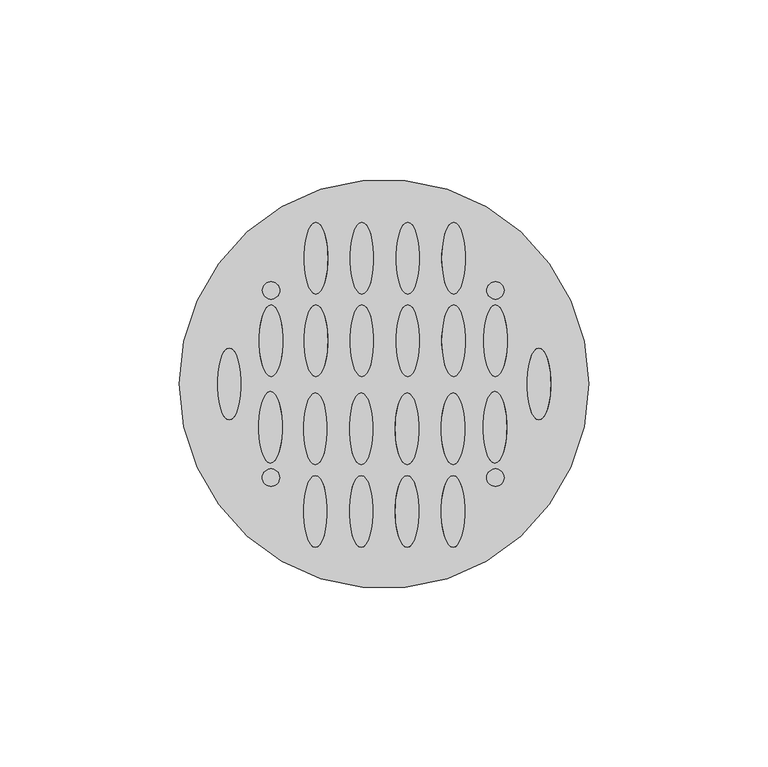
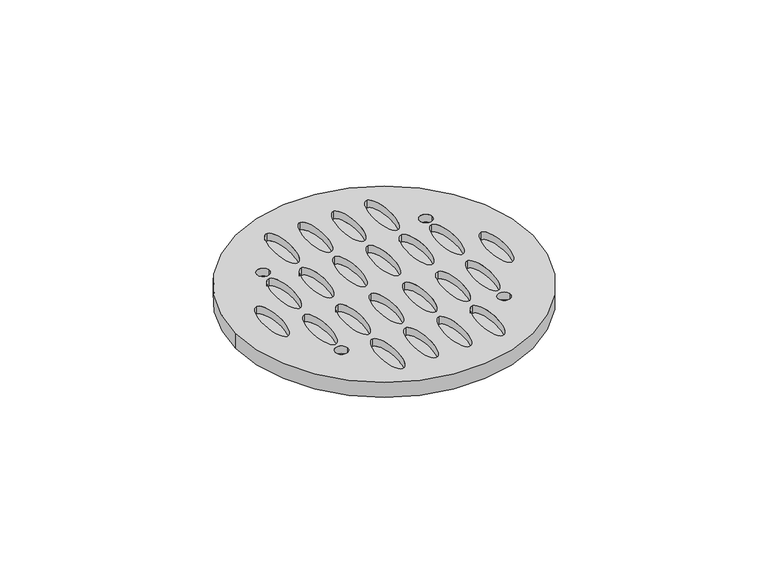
"""IFC4 building model written with IfcOpenShell, lengths in millimetres: pipe fitting geometry, AmancoWavin_Unionesdetubería_SanitarioPVCColaderaSanitariaCementar : Cementar 110 mm."""

from ifc_helpers import new_model, si_unit, point, frame, origin, place, context, project, spatial, polyline, circle_curve, ellipse_curve, trimmed, source, transform, mapped, element, save
from ifc_brep_helpers import plane_surface, cylinder_surface, revolved_surface, extruded_surface, advanced_brep


def pipe_fitting_6519f7ac(model_context):
    return source(origin(), model_context, "Body", "AdvancedBrep", [
        advanced_brep(
        [(-57.0, 0.0, 13.1), (57.0, 0.0, 13.1), (-43.125, 10.0, 13.1), (-43.125, -10.0, 13.1), (-31.4848922, 22.0632684, 13.1), (-31.4848922, 2.0632684, 13.1), (-31.6489621, -2.0699379, 13.1), (-31.6489621, -22.0699379, 13.1), (-29.0574539, 26.0632635, 13.1), (-33.8998162, 26.0632635, 13.1), (-29.068906, -26.0667815, 13.1), (-33.9112683, -26.0667815, 13.1), (-18.9848922, 22.0632684, 13.1), (-18.9848922, 2.0632684, 13.1), (-19.1489621, -2.5, 13.1), (-19.1489621, -22.5, 13.1), (-18.9848922, 45.0632684, 13.1), (-18.9848922, 25.0632684, 13.1), (-19.1489621, -25.5, 13.1), (-19.1489621, -45.5, 13.1), (-6.1848922, 22.0632684, 13.1), (-6.1848922, 2.0632684, 13.1), (-6.3489621, -2.5, 13.1), (-6.3489621, -22.5, 13.1), (-6.1848922, 45.0632684, 13.1), (-6.1848922, 25.0632684, 13.1), (-6.3489621, -25.5, 13.1), (-6.3489621, -45.5, 13.1), (6.6151078, 22.0632684, 13.1), (6.6151078, 2.0632684, 13.1), (6.4510379, -2.5, 13.1), (6.4510379, -22.5, 13.1), (6.6151078, 45.0632684, 13.1), (6.6151078, 25.0632684, 13.1), (6.4510379, -25.5, 13.1), (6.4510379, -45.5, 13.1), (19.4151078, 22.0632684, 13.1), (19.4151078, 2.0632684, 13.1), (19.2510379, -2.5, 13.1), (19.2510379, -22.5, 13.1), (19.4151078, 45.0632684, 13.1), (19.4151078, 25.0632684, 13.1), (19.2510379, -25.5, 13.1), (19.2510379, -45.5, 13.1), (31.0501776, 22.0632684, 13.1), (31.0501776, 2.0632684, 13.1), (30.8861078, -2.0699379, 13.1), (30.8861078, -22.0699379, 13.1), (33.477616, 26.0632635, 13.1), (28.6352536, 26.0632635, 13.1), (33.4661638, -26.0667815, 13.1), (28.6238015, -26.0667815, 13.1), (43.1436396, 10.0, 13.1), (43.1436396, -10.0, 13.1), (-57.0, 0.0, 7.0), (57.0, 0.0, 7.0), (-43.125, -10.0, 9.9881592), (-43.125, 10.0, 9.9881592), (-31.4848922, 2.0632684, 9.9881592), (-31.4848922, 22.0632684, 9.9881592), (-31.6489621, -22.0699379, 9.9881592), (-31.6489621, -2.0699379, 9.9881592), (-33.8998162, 26.0632635, 9.9881592), (-29.0574539, 26.0632635, 9.9881592), (-33.9112683, -26.0667815, 9.9881592), (-29.068906, -26.0667815, 9.9881592), (-18.9848922, 2.0632684, 9.9881592), (-18.9848922, 22.0632684, 9.9881592), (-19.1489621, -22.5, 9.9881592), (-19.1489621, -2.5, 9.9881592), (-18.9848922, 25.0632684, 9.9881592), (-18.9848922, 45.0632684, 9.9881592), (-19.1489621, -45.5, 9.9881592), (-19.1489621, -25.5, 9.9881592), (-6.1848922, 2.0632684, 9.9881592), (-6.1848922, 22.0632684, 9.9881592), (-6.3489621, -22.5, 9.9881592), (-6.3489621, -2.5, 9.9881592), (-6.1848922, 25.0632684, 9.9881592), (-6.1848922, 45.0632684, 9.9881592), (-6.3489621, -45.5, 9.9881592), (-6.3489621, -25.5, 9.9881592), (6.6151078, 2.0632684, 9.9881592), (6.6151078, 22.0632684, 9.9881592), (6.4510379, -22.5, 9.9881592), (6.4510379, -2.5, 9.9881592), (6.6151078, 25.0632684, 9.9881592), (6.6151078, 45.0632684, 9.9881592), (6.4510379, -45.5, 9.9881592), (6.4510379, -25.5, 9.9881592), (19.4151078, 2.0632684, 9.9881592), (19.4151078, 22.0632684, 9.9881592), (19.2510379, -22.5, 9.9881592), (19.2510379, -2.5, 9.9881592), (19.4151078, 25.0632684, 9.9881592), (19.4151078, 45.0632684, 9.9881592), (19.2510379, -45.5, 9.9881592), (19.2510379, -25.5, 9.9881592), (31.0501776, 2.0632684, 9.9881592), (31.0501776, 22.0632684, 9.9881592), (30.8861078, -22.0699379, 9.9881592), (30.8861078, -2.0699379, 9.9881592), (28.6352536, 26.0632635, 9.9881592), (33.477616, 26.0632635, 9.9881592), (28.6238015, -26.0667815, 9.9881592), (33.4661638, -26.0667815, 9.9881592), (43.1436396, -10.0, 9.9881592), (43.1436396, 10.0, 9.9881592)],
        [
            (0, 1, circle_curve(frame((0.0, 0.0, 13.1), z_axis=(0.0, 0.0, 1.0), x_axis=(1.0, 0.0, 0.0)), 57.0)),
            (1, 0, circle_curve(frame((0.0, 0.0, 13.1), z_axis=(0.0, 0.0, 1.0), x_axis=(1.0, 0.0, 0.0)), 57.0)),
            (2, 3, ellipse_curve(frame((-43.125, 0.0, 13.1), z_axis=(0.0, 0.0, -1.0), x_axis=(0.0, 1.0, 0.0)), 10.0, 3.2735089)),
            (3, 2, ellipse_curve(frame((-43.125, 0.0, 13.1), z_axis=(0.0, 0.0, -1.0), x_axis=(0.0, 1.0, 0.0)), 10.0, 3.2735089)),
            (4, 5, ellipse_curve(frame((-31.4848922, 12.0632684, 13.1), z_axis=(0.0, 0.0, -1.0), x_axis=(0.0, 1.0, 0.0)), 10.0, 3.2735089)),
            (5, 4, ellipse_curve(frame((-31.4848922, 12.0632684, 13.1), z_axis=(0.0, 0.0, -1.0), x_axis=(0.0, 1.0, 0.0)), 10.0, 3.2735089)),
            (6, 7, ellipse_curve(frame((-31.6489621, -12.0699379, 13.1), z_axis=(0.0, 0.0, -1.0), x_axis=(0.0, 1.0, 0.0)), 10.0, 3.2735089)),
            (7, 6, ellipse_curve(frame((-31.6489621, -12.0699379, 13.1), z_axis=(0.0, 0.0, -1.0), x_axis=(0.0, 1.0, 0.0)), 10.0, 3.2735089)),
            (8, 9, circle_curve(frame((-31.478635, 26.0632635, 13.1), z_axis=(0.0, 0.0, -1.0), x_axis=(1.0, 0.0, 0.0)), 2.4211812)),
            (9, 8, circle_curve(frame((-31.478635, 26.0632635, 13.1), z_axis=(0.0, 0.0, -1.0), x_axis=(1.0, 0.0, 0.0)), 2.4211812)),
            (10, 11, circle_curve(frame((-31.4900871, -26.0667815, 13.1), z_axis=(0.0, 0.0, -1.0), x_axis=(1.0, 0.0, 0.0)), 2.4211812)),
            (11, 10, circle_curve(frame((-31.4900871, -26.0667815, 13.1), z_axis=(0.0, 0.0, -1.0), x_axis=(1.0, 0.0, 0.0)), 2.4211812)),
            (12, 13, ellipse_curve(frame((-18.9848922, 12.0632684, 13.1), z_axis=(0.0, 0.0, -1.0), x_axis=(0.0, 1.0, 0.0)), 10.0, 3.2735089)),
            (13, 12, ellipse_curve(frame((-18.9848922, 12.0632684, 13.1), z_axis=(0.0, 0.0, -1.0), x_axis=(0.0, 1.0, 0.0)), 10.0, 3.2735089)),
            (14, 15, ellipse_curve(frame((-19.1489621, -12.5, 13.1), z_axis=(0.0, 0.0, -1.0), x_axis=(0.0, 1.0, 0.0)), 10.0, 3.2735089)),
            (15, 14, ellipse_curve(frame((-19.1489621, -12.5, 13.1), z_axis=(0.0, 0.0, -1.0), x_axis=(0.0, 1.0, 0.0)), 10.0, 3.2735089)),
            (16, 17, ellipse_curve(frame((-18.9848922, 35.0632684, 13.1), z_axis=(0.0, 0.0, -1.0), x_axis=(0.0, 1.0, 0.0)), 10.0, 3.2735089)),
            (17, 16, ellipse_curve(frame((-18.9848922, 35.0632684, 13.1), z_axis=(0.0, 0.0, -1.0), x_axis=(0.0, 1.0, 0.0)), 10.0, 3.2735089)),
            (18, 19, ellipse_curve(frame((-19.1489621, -35.5, 13.1), z_axis=(0.0, 0.0, -1.0), x_axis=(0.0, 1.0, 0.0)), 10.0, 3.2735089)),
            (19, 18, ellipse_curve(frame((-19.1489621, -35.5, 13.1), z_axis=(0.0, 0.0, -1.0), x_axis=(0.0, 1.0, 0.0)), 10.0, 3.2735089)),
            (20, 21, ellipse_curve(frame((-6.1848922, 12.0632684, 13.1), z_axis=(0.0, 0.0, -1.0), x_axis=(0.0, 1.0, 0.0)), 10.0, 3.2735089)),
            (21, 20, ellipse_curve(frame((-6.1848922, 12.0632684, 13.1), z_axis=(0.0, 0.0, -1.0), x_axis=(0.0, 1.0, 0.0)), 10.0, 3.2735089)),
            (22, 23, ellipse_curve(frame((-6.3489621, -12.5, 13.1), z_axis=(0.0, 0.0, -1.0), x_axis=(0.0, 1.0, 0.0)), 10.0, 3.2735089)),
            (23, 22, ellipse_curve(frame((-6.3489621, -12.5, 13.1), z_axis=(0.0, 0.0, -1.0), x_axis=(0.0, 1.0, 0.0)), 10.0, 3.2735089)),
            (24, 25, ellipse_curve(frame((-6.1848922, 35.0632684, 13.1), z_axis=(0.0, 0.0, -1.0), x_axis=(0.0, 1.0, 0.0)), 10.0, 3.2735089)),
            (25, 24, ellipse_curve(frame((-6.1848922, 35.0632684, 13.1), z_axis=(0.0, 0.0, -1.0), x_axis=(0.0, 1.0, 0.0)), 10.0, 3.2735089)),
            (26, 27, ellipse_curve(frame((-6.3489621, -35.5, 13.1), z_axis=(0.0, 0.0, -1.0), x_axis=(0.0, 1.0, 0.0)), 10.0, 3.2735089)),
            (27, 26, ellipse_curve(frame((-6.3489621, -35.5, 13.1), z_axis=(0.0, 0.0, -1.0), x_axis=(0.0, 1.0, 0.0)), 10.0, 3.2735089)),
            (28, 29, ellipse_curve(frame((6.6151078, 12.0632684, 13.1), z_axis=(0.0, 0.0, -1.0), x_axis=(0.0, 1.0, 0.0)), 10.0, 3.2735089)),
            (29, 28, ellipse_curve(frame((6.6151078, 12.0632684, 13.1), z_axis=(0.0, 0.0, -1.0), x_axis=(0.0, 1.0, 0.0)), 10.0, 3.2735089)),
            (30, 31, ellipse_curve(frame((6.4510379, -12.5, 13.1), z_axis=(0.0, 0.0, -1.0), x_axis=(0.0, 1.0, 0.0)), 10.0, 3.2735089)),
            (31, 30, ellipse_curve(frame((6.4510379, -12.5, 13.1), z_axis=(0.0, 0.0, -1.0), x_axis=(0.0, 1.0, 0.0)), 10.0, 3.2735089)),
            (32, 33, ellipse_curve(frame((6.6151078, 35.0632684, 13.1), z_axis=(0.0, 0.0, -1.0), x_axis=(0.0, 1.0, 0.0)), 10.0, 3.2735089)),
            (33, 32, ellipse_curve(frame((6.6151078, 35.0632684, 13.1), z_axis=(0.0, 0.0, -1.0), x_axis=(0.0, 1.0, 0.0)), 10.0, 3.2735089)),
            (34, 35, ellipse_curve(frame((6.4510379, -35.5, 13.1), z_axis=(0.0, 0.0, -1.0), x_axis=(0.0, 1.0, 0.0)), 10.0, 3.2735089)),
            (35, 34, ellipse_curve(frame((6.4510379, -35.5, 13.1), z_axis=(0.0, 0.0, -1.0), x_axis=(0.0, 1.0, 0.0)), 10.0, 3.2735089)),
            (36, 37, ellipse_curve(frame((19.4151078, 12.0632684, 13.1), z_axis=(0.0, 0.0, -1.0), x_axis=(0.0, 1.0, 0.0)), 10.0, 3.2735089)),
            (37, 36, ellipse_curve(frame((19.4151078, 12.0632684, 13.1), z_axis=(0.0, 0.0, -1.0), x_axis=(0.0, 1.0, 0.0)), 10.0, 3.2735089)),
            (38, 39, ellipse_curve(frame((19.2510379, -12.5, 13.1), z_axis=(0.0, 0.0, -1.0), x_axis=(0.0, 1.0, 0.0)), 10.0, 3.2735089)),
            (39, 38, ellipse_curve(frame((19.2510379, -12.5, 13.1), z_axis=(0.0, 0.0, -1.0), x_axis=(0.0, 1.0, 0.0)), 10.0, 3.2735089)),
            (40, 41, ellipse_curve(frame((19.4151078, 35.0632684, 13.1), z_axis=(0.0, 0.0, -1.0), x_axis=(0.0, 1.0, 0.0)), 10.0, 3.2735089)),
            (41, 40, ellipse_curve(frame((19.4151078, 35.0632684, 13.1), z_axis=(0.0, 0.0, -1.0), x_axis=(0.0, 1.0, 0.0)), 10.0, 3.2735089)),
            (42, 43, ellipse_curve(frame((19.2510379, -35.5, 13.1), z_axis=(0.0, 0.0, -1.0), x_axis=(0.0, 1.0, 0.0)), 10.0, 3.2735089)),
            (43, 42, ellipse_curve(frame((19.2510379, -35.5, 13.1), z_axis=(0.0, 0.0, -1.0), x_axis=(0.0, 1.0, 0.0)), 10.0, 3.2735089)),
            (44, 45, ellipse_curve(frame((31.0501776, 12.0632684, 13.1), z_axis=(0.0, 0.0, -1.0), x_axis=(0.0, 1.0, 0.0)), 10.0, 3.2735089)),
            (45, 44, ellipse_curve(frame((31.0501776, 12.0632684, 13.1), z_axis=(0.0, 0.0, -1.0), x_axis=(0.0, 1.0, 0.0)), 10.0, 3.2735089)),
            (46, 47, ellipse_curve(frame((30.8861078, -12.0699379, 13.1), z_axis=(0.0, 0.0, -1.0), x_axis=(0.0, 1.0, 0.0)), 10.0, 3.2735089)),
            (47, 46, ellipse_curve(frame((30.8861078, -12.0699379, 13.1), z_axis=(0.0, 0.0, -1.0), x_axis=(0.0, 1.0, 0.0)), 10.0, 3.2735089)),
            (48, 49, circle_curve(frame((31.0564348, 26.0632635, 13.1), z_axis=(0.0, 0.0, -1.0), x_axis=(1.0, 0.0, 0.0)), 2.4211812)),
            (49, 48, circle_curve(frame((31.0564348, 26.0632635, 13.1), z_axis=(0.0, 0.0, -1.0), x_axis=(1.0, 0.0, 0.0)), 2.4211812)),
            (50, 51, circle_curve(frame((31.0449827, -26.0667815, 13.1), z_axis=(0.0, 0.0, -1.0), x_axis=(1.0, 0.0, 0.0)), 2.4211812)),
            (51, 50, circle_curve(frame((31.0449827, -26.0667815, 13.1), z_axis=(0.0, 0.0, -1.0), x_axis=(1.0, 0.0, 0.0)), 2.4211812)),
            (52, 53, ellipse_curve(frame((43.1436396, 0.0, 13.1), z_axis=(0.0, 0.0, -1.0), x_axis=(0.0, 1.0, 0.0)), 10.0, 3.2735089)),
            (53, 52, ellipse_curve(frame((43.1436396, 0.0, 13.1), z_axis=(0.0, 0.0, -1.0), x_axis=(0.0, 1.0, 0.0)), 10.0, 3.2735089)),
            (54, 55, circle_curve(frame((0.0, 0.0, 7.0), z_axis=(0.0, 0.0, -1.0), x_axis=(1.0, 0.0, 0.0)), 57.0)),
            (55, 54, circle_curve(frame((0.0, 0.0, 7.0), z_axis=(0.0, 0.0, -1.0), x_axis=(1.0, 0.0, 0.0)), 57.0)),
            (0, 54),
            (55, 1),
            (56, 57, ellipse_curve(frame((-43.125, 0.0, 9.9881592), z_axis=(0.0, 0.0, 1.0), x_axis=(0.0, 1.0, 0.0)), 10.0, 3.2735089)),
            (57, 56, ellipse_curve(frame((-43.125, 0.0, 9.9881592), z_axis=(0.0, 0.0, 1.0), x_axis=(0.0, 1.0, 0.0)), 10.0, 3.2735089)),
            (58, 59, ellipse_curve(frame((-31.4848922, 12.0632684, 9.9881592), z_axis=(0.0, 0.0, 1.0), x_axis=(0.0, 1.0, 0.0)), 10.0, 3.2735089)),
            (59, 58, ellipse_curve(frame((-31.4848922, 12.0632684, 9.9881592), z_axis=(0.0, 0.0, 1.0), x_axis=(0.0, 1.0, 0.0)), 10.0, 3.2735089)),
            (60, 61, ellipse_curve(frame((-31.6489621, -12.0699379, 9.9881592), z_axis=(0.0, 0.0, 1.0), x_axis=(0.0, 1.0, 0.0)), 10.0, 3.2735089)),
            (61, 60, ellipse_curve(frame((-31.6489621, -12.0699379, 9.9881592), z_axis=(0.0, 0.0, 1.0), x_axis=(0.0, 1.0, 0.0)), 10.0, 3.2735089)),
            (62, 63, circle_curve(frame((-31.478635, 26.0632635, 9.9881592), z_axis=(0.0, 0.0, 1.0), x_axis=(1.0, 0.0, 0.0)), 2.4211812)),
            (63, 62, circle_curve(frame((-31.478635, 26.0632635, 9.9881592), z_axis=(0.0, 0.0, 1.0), x_axis=(1.0, 0.0, 0.0)), 2.4211812)),
            (64, 65, circle_curve(frame((-31.4900871, -26.0667815, 9.9881592), z_axis=(0.0, 0.0, 1.0), x_axis=(1.0, 0.0, 0.0)), 2.4211812)),
            (65, 64, circle_curve(frame((-31.4900871, -26.0667815, 9.9881592), z_axis=(0.0, 0.0, 1.0), x_axis=(1.0, 0.0, 0.0)), 2.4211812)),
            (66, 67, ellipse_curve(frame((-18.9848922, 12.0632684, 9.9881592), z_axis=(0.0, 0.0, 1.0), x_axis=(0.0, 1.0, 0.0)), 10.0, 3.2735089)),
            (67, 66, ellipse_curve(frame((-18.9848922, 12.0632684, 9.9881592), z_axis=(0.0, 0.0, 1.0), x_axis=(0.0, 1.0, 0.0)), 10.0, 3.2735089)),
            (68, 69, ellipse_curve(frame((-19.1489621, -12.5, 9.9881592), z_axis=(0.0, 0.0, 1.0), x_axis=(0.0, 1.0, 0.0)), 10.0, 3.2735089)),
            (69, 68, ellipse_curve(frame((-19.1489621, -12.5, 9.9881592), z_axis=(0.0, 0.0, 1.0), x_axis=(0.0, 1.0, 0.0)), 10.0, 3.2735089)),
            (70, 71, ellipse_curve(frame((-18.9848922, 35.0632684, 9.9881592), z_axis=(0.0, 0.0, 1.0), x_axis=(0.0, 1.0, 0.0)), 10.0, 3.2735089)),
            (71, 70, ellipse_curve(frame((-18.9848922, 35.0632684, 9.9881592), z_axis=(0.0, 0.0, 1.0), x_axis=(0.0, 1.0, 0.0)), 10.0, 3.2735089)),
            (72, 73, ellipse_curve(frame((-19.1489621, -35.5, 9.9881592), z_axis=(0.0, 0.0, 1.0), x_axis=(0.0, 1.0, 0.0)), 10.0, 3.2735089)),
            (73, 72, ellipse_curve(frame((-19.1489621, -35.5, 9.9881592), z_axis=(0.0, 0.0, 1.0), x_axis=(0.0, 1.0, 0.0)), 10.0, 3.2735089)),
            (74, 75, ellipse_curve(frame((-6.1848922, 12.0632684, 9.9881592), z_axis=(0.0, 0.0, 1.0), x_axis=(0.0, 1.0, 0.0)), 10.0, 3.2735089)),
            (75, 74, ellipse_curve(frame((-6.1848922, 12.0632684, 9.9881592), z_axis=(0.0, 0.0, 1.0), x_axis=(0.0, 1.0, 0.0)), 10.0, 3.2735089)),
            (76, 77, ellipse_curve(frame((-6.3489621, -12.5, 9.9881592), z_axis=(0.0, 0.0, 1.0), x_axis=(0.0, 1.0, 0.0)), 10.0, 3.2735089)),
            (77, 76, ellipse_curve(frame((-6.3489621, -12.5, 9.9881592), z_axis=(0.0, 0.0, 1.0), x_axis=(0.0, 1.0, 0.0)), 10.0, 3.2735089)),
            (78, 79, ellipse_curve(frame((-6.1848922, 35.0632684, 9.9881592), z_axis=(0.0, 0.0, 1.0), x_axis=(0.0, 1.0, 0.0)), 10.0, 3.2735089)),
            (79, 78, ellipse_curve(frame((-6.1848922, 35.0632684, 9.9881592), z_axis=(0.0, 0.0, 1.0), x_axis=(0.0, 1.0, 0.0)), 10.0, 3.2735089)),
            (80, 81, ellipse_curve(frame((-6.3489621, -35.5, 9.9881592), z_axis=(0.0, 0.0, 1.0), x_axis=(0.0, 1.0, 0.0)), 10.0, 3.2735089)),
            (81, 80, ellipse_curve(frame((-6.3489621, -35.5, 9.9881592), z_axis=(0.0, 0.0, 1.0), x_axis=(0.0, 1.0, 0.0)), 10.0, 3.2735089)),
            (82, 83, ellipse_curve(frame((6.6151078, 12.0632684, 9.9881592), z_axis=(0.0, 0.0, 1.0), x_axis=(0.0, 1.0, 0.0)), 10.0, 3.2735089)),
            (83, 82, ellipse_curve(frame((6.6151078, 12.0632684, 9.9881592), z_axis=(0.0, 0.0, 1.0), x_axis=(0.0, 1.0, 0.0)), 10.0, 3.2735089)),
            (84, 85, ellipse_curve(frame((6.4510379, -12.5, 9.9881592), z_axis=(0.0, 0.0, 1.0), x_axis=(0.0, 1.0, 0.0)), 10.0, 3.2735089)),
            (85, 84, ellipse_curve(frame((6.4510379, -12.5, 9.9881592), z_axis=(0.0, 0.0, 1.0), x_axis=(0.0, 1.0, 0.0)), 10.0, 3.2735089)),
            (86, 87, ellipse_curve(frame((6.6151078, 35.0632684, 9.9881592), z_axis=(0.0, 0.0, 1.0), x_axis=(0.0, 1.0, 0.0)), 10.0, 3.2735089)),
            (87, 86, ellipse_curve(frame((6.6151078, 35.0632684, 9.9881592), z_axis=(0.0, 0.0, 1.0), x_axis=(0.0, 1.0, 0.0)), 10.0, 3.2735089)),
            (88, 89, ellipse_curve(frame((6.4510379, -35.5, 9.9881592), z_axis=(0.0, 0.0, 1.0), x_axis=(0.0, 1.0, 0.0)), 10.0, 3.2735089)),
            (89, 88, ellipse_curve(frame((6.4510379, -35.5, 9.9881592), z_axis=(0.0, 0.0, 1.0), x_axis=(0.0, 1.0, 0.0)), 10.0, 3.2735089)),
            (90, 91, ellipse_curve(frame((19.4151078, 12.0632684, 9.9881592), z_axis=(0.0, 0.0, 1.0), x_axis=(0.0, 1.0, 0.0)), 10.0, 3.2735089)),
            (91, 90, ellipse_curve(frame((19.4151078, 12.0632684, 9.9881592), z_axis=(0.0, 0.0, 1.0), x_axis=(0.0, 1.0, 0.0)), 10.0, 3.2735089)),
            (92, 93, ellipse_curve(frame((19.2510379, -12.5, 9.9881592), z_axis=(0.0, 0.0, 1.0), x_axis=(0.0, 1.0, 0.0)), 10.0, 3.2735089)),
            (93, 92, ellipse_curve(frame((19.2510379, -12.5, 9.9881592), z_axis=(0.0, 0.0, 1.0), x_axis=(0.0, 1.0, 0.0)), 10.0, 3.2735089)),
            (94, 95, ellipse_curve(frame((19.4151078, 35.0632684, 9.9881592), z_axis=(0.0, 0.0, 1.0), x_axis=(0.0, 1.0, 0.0)), 10.0, 3.2735089)),
            (95, 94, ellipse_curve(frame((19.4151078, 35.0632684, 9.9881592), z_axis=(0.0, 0.0, 1.0), x_axis=(0.0, 1.0, 0.0)), 10.0, 3.2735089)),
            (96, 97, ellipse_curve(frame((19.2510379, -35.5, 9.9881592), z_axis=(0.0, 0.0, 1.0), x_axis=(0.0, 1.0, 0.0)), 10.0, 3.2735089)),
            (97, 96, ellipse_curve(frame((19.2510379, -35.5, 9.9881592), z_axis=(0.0, 0.0, 1.0), x_axis=(0.0, 1.0, 0.0)), 10.0, 3.2735089)),
            (98, 99, ellipse_curve(frame((31.0501776, 12.0632684, 9.9881592), z_axis=(0.0, 0.0, 1.0), x_axis=(0.0, 1.0, 0.0)), 10.0, 3.2735089)),
            (99, 98, ellipse_curve(frame((31.0501776, 12.0632684, 9.9881592), z_axis=(0.0, 0.0, 1.0), x_axis=(0.0, 1.0, 0.0)), 10.0, 3.2735089)),
            (100, 101, ellipse_curve(frame((30.8861078, -12.0699379, 9.9881592), z_axis=(0.0, 0.0, 1.0), x_axis=(0.0, 1.0, 0.0)), 10.0, 3.2735089)),
            (101, 100, ellipse_curve(frame((30.8861078, -12.0699379, 9.9881592), z_axis=(0.0, 0.0, 1.0), x_axis=(0.0, 1.0, 0.0)), 10.0, 3.2735089)),
            (102, 103, circle_curve(frame((31.0564348, 26.0632635, 9.9881592), z_axis=(0.0, 0.0, 1.0), x_axis=(1.0, 0.0, 0.0)), 2.4211812)),
            (103, 102, circle_curve(frame((31.0564348, 26.0632635, 9.9881592), z_axis=(0.0, 0.0, 1.0), x_axis=(1.0, 0.0, 0.0)), 2.4211812)),
            (104, 105, circle_curve(frame((31.0449827, -26.0667815, 9.9881592), z_axis=(0.0, 0.0, 1.0), x_axis=(1.0, 0.0, 0.0)), 2.4211812)),
            (105, 104, circle_curve(frame((31.0449827, -26.0667815, 9.9881592), z_axis=(0.0, 0.0, 1.0), x_axis=(1.0, 0.0, 0.0)), 2.4211812)),
            (106, 107, ellipse_curve(frame((43.1436396, 0.0, 9.9881592), z_axis=(0.0, 0.0, 1.0), x_axis=(0.0, 1.0, 0.0)), 10.0, 3.2735089)),
            (107, 106, ellipse_curve(frame((43.1436396, 0.0, 9.9881592), z_axis=(0.0, 0.0, 1.0), x_axis=(0.0, 1.0, 0.0)), 10.0, 3.2735089)),
            (56, 3),
            (2, 57),
            (58, 5),
            (4, 59),
            (60, 7),
            (6, 61),
            (62, 9),
            (8, 63),
            (64, 11),
            (10, 65),
            (66, 13),
            (12, 67),
            (68, 15),
            (14, 69),
            (70, 17),
            (16, 71),
            (72, 19),
            (18, 73),
            (74, 21),
            (20, 75),
            (76, 23),
            (22, 77),
            (78, 25),
            (24, 79),
            (80, 27),
            (26, 81),
            (82, 29),
            (28, 83),
            (84, 31),
            (30, 85),
            (86, 33),
            (32, 87),
            (88, 35),
            (34, 89),
            (90, 37),
            (36, 91),
            (92, 39),
            (38, 93),
            (94, 41),
            (40, 95),
            (96, 43),
            (42, 97),
            (98, 45),
            (44, 99),
            (100, 47),
            (46, 101),
            (102, 49),
            (48, 103),
            (104, 51),
            (50, 105),
            (106, 53),
            (52, 107),
        ],
        [
            plane_surface(frame((57.0, 0.0, 13.1), z_axis=(0.0, 0.0, 1.0), x_axis=(0.0, 1.0, 0.0))),
            plane_surface(frame((57.0, 0.0, 7.0), z_axis=(0.0, 0.0, -1.0), x_axis=(0.0, -1.0, 0.0))),
            cylinder_surface(frame((0.0, 0.0, 7.0), z_axis=(0.0, 0.0, 1.0), x_axis=(1.0, 0.0, 0.0)), 57.0),
            plane_surface(frame((-43.125, 10.0, 9.9881592), z_axis=(0.0, 0.0, 1.0), x_axis=(1.0, 0.0, 0.0))),
            extruded_surface(trimmed(ellipse_curve(frame((-43.125, 0.0, 9.9881592), z_axis=(0.0, 0.0, 1.0), x_axis=(0.0, 1.0, 0.0)), 10.0, 3.2735089), [point((-43.125, -10.0, 9.9881592))], [point((-43.125, 10.0, 9.9881592))], True, "CARTESIAN"), (0.0, 0.0, -3.0118408), 3.0118408),
            extruded_surface(trimmed(ellipse_curve(frame((-43.125, 0.0, 9.9881592), z_axis=(0.0, 0.0, 1.0), x_axis=(0.0, 1.0, 0.0)), 10.0, 3.2735089), [point((-43.125, 10.0, 9.9881592))], [point((-43.125, -10.0, 9.9881592))], True, "CARTESIAN"), (0.0, 0.0, -3.0118408), 3.0118408),
            extruded_surface(trimmed(ellipse_curve(frame((-31.4848922, 12.0632684, 13.0), z_axis=(0.0, 0.0, 1.0), x_axis=(0.0, 1.0, 0.0)), 10.0, 3.2735089), [point((-31.4848922, 2.0632684, 13.0))], [point((-31.4848922, 22.0632684, 13.0))], True, "CARTESIAN"), (0.0, 0.0, -3.0118408), 3.0118408),
            extruded_surface(trimmed(ellipse_curve(frame((-31.4848922, 12.0632684, 13.0), z_axis=(0.0, 0.0, 1.0), x_axis=(0.0, 1.0, 0.0)), 10.0, 3.2735089), [point((-31.4848922, 22.0632684, 13.0))], [point((-31.4848922, 2.0632684, 13.0))], True, "CARTESIAN"), (0.0, 0.0, -3.0118408), 3.0118408),
            extruded_surface(trimmed(ellipse_curve(frame((-31.6489621, -12.0699379, 13.0), z_axis=(0.0, 0.0, 1.0), x_axis=(0.0, 1.0, 0.0)), 10.0, 3.2735089), [point((-31.6489621, -22.0699379, 13.0))], [point((-31.6489621, -2.0699379, 13.0))], True, "CARTESIAN"), (0.0, 0.0, -3.0118408), 3.0118408),
            extruded_surface(trimmed(ellipse_curve(frame((-31.6489621, -12.0699379, 13.0), z_axis=(0.0, 0.0, 1.0), x_axis=(0.0, 1.0, 0.0)), 10.0, 3.2735089), [point((-31.6489621, -2.0699379, 13.0))], [point((-31.6489621, -22.0699379, 13.0))], True, "CARTESIAN"), (0.0, 0.0, -3.0118408), 3.0118408),
            revolved_surface(polyline([(-29.0574538, 26.0632635, 13.1), (-29.0574538, 26.0632635, 9.9881592)]), (-31.478635, 26.0632635, 13.0), (0.0, 0.0, 1.0)),
            revolved_surface(polyline([(-29.0689059, -26.0667815, 13.1), (-29.0689059, -26.0667815, 9.9881592)]), (-31.4900871, -26.0667815, 13.0), (0.0, 0.0, 1.0)),
            extruded_surface(trimmed(ellipse_curve(frame((-18.9848922, 12.0632684, 13.0), z_axis=(0.0, 0.0, 1.0), x_axis=(0.0, 1.0, 0.0)), 10.0, 3.2735089), [point((-18.9848922, 2.0632684, 13.0))], [point((-18.9848922, 22.0632684, 13.0))], True, "CARTESIAN"), (0.0, 0.0, -3.0118408), 3.0118408),
            extruded_surface(trimmed(ellipse_curve(frame((-18.9848922, 12.0632684, 13.0), z_axis=(0.0, 0.0, 1.0), x_axis=(0.0, 1.0, 0.0)), 10.0, 3.2735089), [point((-18.9848922, 22.0632684, 13.0))], [point((-18.9848922, 2.0632684, 13.0))], True, "CARTESIAN"), (0.0, 0.0, -3.0118408), 3.0118408),
            extruded_surface(trimmed(ellipse_curve(frame((-19.1489621, -12.5, 13.0), z_axis=(0.0, 0.0, 1.0), x_axis=(0.0, 1.0, 0.0)), 10.0, 3.2735089), [point((-19.1489621, -22.5, 13.0))], [point((-19.1489621, -2.5, 13.0))], True, "CARTESIAN"), (0.0, 0.0, -3.0118408), 3.0118408),
            extruded_surface(trimmed(ellipse_curve(frame((-19.1489621, -12.5, 13.0), z_axis=(0.0, 0.0, 1.0), x_axis=(0.0, 1.0, 0.0)), 10.0, 3.2735089), [point((-19.1489621, -2.5, 13.0))], [point((-19.1489621, -22.5, 13.0))], True, "CARTESIAN"), (0.0, 0.0, -3.0118408), 3.0118408),
            extruded_surface(trimmed(ellipse_curve(frame((-18.9848922, 35.0632684, 13.0), z_axis=(0.0, 0.0, 1.0), x_axis=(0.0, 1.0, 0.0)), 10.0, 3.2735089), [point((-18.9848922, 25.0632684, 13.0))], [point((-18.9848922, 45.0632684, 13.0))], True, "CARTESIAN"), (0.0, 0.0, -3.0118408), 3.0118408),
            extruded_surface(trimmed(ellipse_curve(frame((-18.9848922, 35.0632684, 13.0), z_axis=(0.0, 0.0, 1.0), x_axis=(0.0, 1.0, 0.0)), 10.0, 3.2735089), [point((-18.9848922, 45.0632684, 13.0))], [point((-18.9848922, 25.0632684, 13.0))], True, "CARTESIAN"), (0.0, 0.0, -3.0118408), 3.0118408),
            extruded_surface(trimmed(ellipse_curve(frame((-19.1489621, -35.5, 13.0), z_axis=(0.0, 0.0, 1.0), x_axis=(0.0, 1.0, 0.0)), 10.0, 3.2735089), [point((-19.1489621, -45.5, 13.0))], [point((-19.1489621, -25.5, 13.0))], True, "CARTESIAN"), (0.0, 0.0, -3.0118408), 3.0118408),
            extruded_surface(trimmed(ellipse_curve(frame((-19.1489621, -35.5, 13.0), z_axis=(0.0, 0.0, 1.0), x_axis=(0.0, 1.0, 0.0)), 10.0, 3.2735089), [point((-19.1489621, -25.5, 13.0))], [point((-19.1489621, -45.5, 13.0))], True, "CARTESIAN"), (0.0, 0.0, -3.0118408), 3.0118408),
            extruded_surface(trimmed(ellipse_curve(frame((-6.1848922, 12.0632684, 13.0), z_axis=(0.0, 0.0, 1.0), x_axis=(0.0, 1.0, 0.0)), 10.0, 3.2735089), [point((-6.1848922, 2.0632684, 13.0))], [point((-6.1848922, 22.0632684, 13.0))], True, "CARTESIAN"), (0.0, 0.0, -3.0118408), 3.0118408),
            extruded_surface(trimmed(ellipse_curve(frame((-6.1848922, 12.0632684, 13.0), z_axis=(0.0, 0.0, 1.0), x_axis=(0.0, 1.0, 0.0)), 10.0, 3.2735089), [point((-6.1848922, 22.0632684, 13.0))], [point((-6.1848922, 2.0632684, 13.0))], True, "CARTESIAN"), (0.0, 0.0, -3.0118408), 3.0118408),
            extruded_surface(trimmed(ellipse_curve(frame((-6.3489621, -12.5, 13.0), z_axis=(0.0, 0.0, 1.0), x_axis=(0.0, 1.0, 0.0)), 10.0, 3.2735089), [point((-6.3489621, -22.5, 13.0))], [point((-6.3489621, -2.5, 13.0))], True, "CARTESIAN"), (0.0, 0.0, -3.0118408), 3.0118408),
            extruded_surface(trimmed(ellipse_curve(frame((-6.3489621, -12.5, 13.0), z_axis=(0.0, 0.0, 1.0), x_axis=(0.0, 1.0, 0.0)), 10.0, 3.2735089), [point((-6.3489621, -2.5, 13.0))], [point((-6.3489621, -22.5, 13.0))], True, "CARTESIAN"), (0.0, 0.0, -3.0118408), 3.0118408),
            extruded_surface(trimmed(ellipse_curve(frame((-6.1848922, 35.0632684, 13.0), z_axis=(0.0, 0.0, 1.0), x_axis=(0.0, 1.0, 0.0)), 10.0, 3.2735089), [point((-6.1848922, 25.0632684, 13.0))], [point((-6.1848922, 45.0632684, 13.0))], True, "CARTESIAN"), (0.0, 0.0, -3.0118408), 3.0118408),
            extruded_surface(trimmed(ellipse_curve(frame((-6.1848922, 35.0632684, 13.0), z_axis=(0.0, 0.0, 1.0), x_axis=(0.0, 1.0, 0.0)), 10.0, 3.2735089), [point((-6.1848922, 45.0632684, 13.0))], [point((-6.1848922, 25.0632684, 13.0))], True, "CARTESIAN"), (0.0, 0.0, -3.0118408), 3.0118408),
            extruded_surface(trimmed(ellipse_curve(frame((-6.3489621, -35.5, 13.0), z_axis=(0.0, 0.0, 1.0), x_axis=(0.0, 1.0, 0.0)), 10.0, 3.2735089), [point((-6.3489621, -45.5, 13.0))], [point((-6.3489621, -25.5, 13.0))], True, "CARTESIAN"), (0.0, 0.0, -3.0118408), 3.0118408),
            extruded_surface(trimmed(ellipse_curve(frame((-6.3489621, -35.5, 13.0), z_axis=(0.0, 0.0, 1.0), x_axis=(0.0, 1.0, 0.0)), 10.0, 3.2735089), [point((-6.3489621, -25.5, 13.0))], [point((-6.3489621, -45.5, 13.0))], True, "CARTESIAN"), (0.0, 0.0, -3.0118408), 3.0118408),
            extruded_surface(trimmed(ellipse_curve(frame((6.6151078, 12.0632684, 13.0), z_axis=(0.0, 0.0, 1.0), x_axis=(0.0, 1.0, 0.0)), 10.0, 3.2735089), [point((6.6151078, 2.0632684, 13.0))], [point((6.6151078, 22.0632684, 13.0))], True, "CARTESIAN"), (0.0, 0.0, -3.0118408), 3.0118408),
            extruded_surface(trimmed(ellipse_curve(frame((6.6151078, 12.0632684, 13.0), z_axis=(0.0, 0.0, 1.0), x_axis=(0.0, 1.0, 0.0)), 10.0, 3.2735089), [point((6.6151078, 22.0632684, 13.0))], [point((6.6151078, 2.0632684, 13.0))], True, "CARTESIAN"), (0.0, 0.0, -3.0118408), 3.0118408),
            extruded_surface(trimmed(ellipse_curve(frame((6.4510379, -12.5, 13.0), z_axis=(0.0, 0.0, 1.0), x_axis=(0.0, 1.0, 0.0)), 10.0, 3.2735089), [point((6.4510379, -22.5, 13.0))], [point((6.4510379, -2.5, 13.0))], True, "CARTESIAN"), (0.0, 0.0, -3.0118408), 3.0118408),
            extruded_surface(trimmed(ellipse_curve(frame((6.4510379, -12.5, 13.0), z_axis=(0.0, 0.0, 1.0), x_axis=(0.0, 1.0, 0.0)), 10.0, 3.2735089), [point((6.4510379, -2.5, 13.0))], [point((6.4510379, -22.5, 13.0))], True, "CARTESIAN"), (0.0, 0.0, -3.0118408), 3.0118408),
            extruded_surface(trimmed(ellipse_curve(frame((6.6151078, 35.0632684, 13.0), z_axis=(0.0, 0.0, 1.0), x_axis=(0.0, 1.0, 0.0)), 10.0, 3.2735089), [point((6.6151078, 25.0632684, 13.0))], [point((6.6151078, 45.0632684, 13.0))], True, "CARTESIAN"), (0.0, 0.0, -3.0118408), 3.0118408),
            extruded_surface(trimmed(ellipse_curve(frame((6.6151078, 35.0632684, 13.0), z_axis=(0.0, 0.0, 1.0), x_axis=(0.0, 1.0, 0.0)), 10.0, 3.2735089), [point((6.6151078, 45.0632684, 13.0))], [point((6.6151078, 25.0632684, 13.0))], True, "CARTESIAN"), (0.0, 0.0, -3.0118408), 3.0118408),
            extruded_surface(trimmed(ellipse_curve(frame((6.4510379, -35.5, 13.0), z_axis=(0.0, 0.0, 1.0), x_axis=(0.0, 1.0, 0.0)), 10.0, 3.2735089), [point((6.4510379, -45.5, 13.0))], [point((6.4510379, -25.5, 13.0))], True, "CARTESIAN"), (0.0, 0.0, -3.0118408), 3.0118408),
            extruded_surface(trimmed(ellipse_curve(frame((6.4510379, -35.5, 13.0), z_axis=(0.0, 0.0, 1.0), x_axis=(0.0, 1.0, 0.0)), 10.0, 3.2735089), [point((6.4510379, -25.5, 13.0))], [point((6.4510379, -45.5, 13.0))], True, "CARTESIAN"), (0.0, 0.0, -3.0118408), 3.0118408),
            extruded_surface(trimmed(ellipse_curve(frame((19.4151078, 12.0632684, 13.0), z_axis=(0.0, 0.0, 1.0), x_axis=(0.0, 1.0, 0.0)), 10.0, 3.2735089), [point((19.4151078, 2.0632684, 13.0))], [point((19.4151078, 22.0632684, 13.0))], True, "CARTESIAN"), (0.0, 0.0, -3.0118408), 3.0118408),
            extruded_surface(trimmed(ellipse_curve(frame((19.4151078, 12.0632684, 13.0), z_axis=(0.0, 0.0, 1.0), x_axis=(0.0, 1.0, 0.0)), 10.0, 3.2735089), [point((19.4151078, 22.0632684, 13.0))], [point((19.4151078, 2.0632684, 13.0))], True, "CARTESIAN"), (0.0, 0.0, -3.0118408), 3.0118408),
            extruded_surface(trimmed(ellipse_curve(frame((19.2510379, -12.5, 13.0), z_axis=(0.0, 0.0, 1.0), x_axis=(0.0, 1.0, 0.0)), 10.0, 3.2735089), [point((19.2510379, -22.5, 13.0))], [point((19.2510379, -2.5, 13.0))], True, "CARTESIAN"), (0.0, 0.0, -3.0118408), 3.0118408),
            extruded_surface(trimmed(ellipse_curve(frame((19.2510379, -12.5, 13.0), z_axis=(0.0, 0.0, 1.0), x_axis=(0.0, 1.0, 0.0)), 10.0, 3.2735089), [point((19.2510379, -2.5, 13.0))], [point((19.2510379, -22.5, 13.0))], True, "CARTESIAN"), (0.0, 0.0, -3.0118408), 3.0118408),
            extruded_surface(trimmed(ellipse_curve(frame((19.4151078, 35.0632684, 13.0), z_axis=(0.0, 0.0, 1.0), x_axis=(0.0, 1.0, 0.0)), 10.0, 3.2735089), [point((19.4151078, 25.0632684, 13.0))], [point((19.4151078, 45.0632684, 13.0))], True, "CARTESIAN"), (0.0, 0.0, -3.0118408), 3.0118408),
            extruded_surface(trimmed(ellipse_curve(frame((19.4151078, 35.0632684, 13.0), z_axis=(0.0, 0.0, 1.0), x_axis=(0.0, 1.0, 0.0)), 10.0, 3.2735089), [point((19.4151078, 45.0632684, 13.0))], [point((19.4151078, 25.0632684, 13.0))], True, "CARTESIAN"), (0.0, 0.0, -3.0118408), 3.0118408),
            extruded_surface(trimmed(ellipse_curve(frame((19.2510379, -35.5, 13.0), z_axis=(0.0, 0.0, 1.0), x_axis=(0.0, 1.0, 0.0)), 10.0, 3.2735089), [point((19.2510379, -45.5, 13.0))], [point((19.2510379, -25.5, 13.0))], True, "CARTESIAN"), (0.0, 0.0, -3.0118408), 3.0118408),
            extruded_surface(trimmed(ellipse_curve(frame((19.2510379, -35.5, 13.0), z_axis=(0.0, 0.0, 1.0), x_axis=(0.0, 1.0, 0.0)), 10.0, 3.2735089), [point((19.2510379, -25.5, 13.0))], [point((19.2510379, -45.5, 13.0))], True, "CARTESIAN"), (0.0, 0.0, -3.0118408), 3.0118408),
            extruded_surface(trimmed(ellipse_curve(frame((31.0501776, 12.0632684, 13.0), z_axis=(0.0, 0.0, 1.0), x_axis=(0.0, 1.0, 0.0)), 10.0, 3.2735089), [point((31.0501776, 2.0632684, 13.0))], [point((31.0501776, 22.0632684, 13.0))], True, "CARTESIAN"), (0.0, 0.0, -3.0118408), 3.0118408),
            extruded_surface(trimmed(ellipse_curve(frame((31.0501776, 12.0632684, 13.0), z_axis=(0.0, 0.0, 1.0), x_axis=(0.0, 1.0, 0.0)), 10.0, 3.2735089), [point((31.0501776, 22.0632684, 13.0))], [point((31.0501776, 2.0632684, 13.0))], True, "CARTESIAN"), (0.0, 0.0, -3.0118408), 3.0118408),
            extruded_surface(trimmed(ellipse_curve(frame((30.8861078, -12.0699379, 13.0), z_axis=(0.0, 0.0, 1.0), x_axis=(0.0, 1.0, 0.0)), 10.0, 3.2735089), [point((30.8861078, -22.0699379, 13.0))], [point((30.8861078, -2.0699379, 13.0))], True, "CARTESIAN"), (0.0, 0.0, -3.0118408), 3.0118408),
            extruded_surface(trimmed(ellipse_curve(frame((30.8861078, -12.0699379, 13.0), z_axis=(0.0, 0.0, 1.0), x_axis=(0.0, 1.0, 0.0)), 10.0, 3.2735089), [point((30.8861078, -2.0699379, 13.0))], [point((30.8861078, -22.0699379, 13.0))], True, "CARTESIAN"), (0.0, 0.0, -3.0118408), 3.0118408),
            revolved_surface(polyline([(33.477616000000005, 26.0632635, 13.1), (33.477616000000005, 26.0632635, 9.9881592)]), (31.0564348, 26.0632635, 13.0), (0.0, 0.0, 1.0)),
            revolved_surface(polyline([(33.4661639, -26.0667815, 13.1), (33.4661639, -26.0667815, 9.9881592)]), (31.0449827, -26.0667815, 13.0), (0.0, 0.0, 1.0)),
            extruded_surface(trimmed(ellipse_curve(frame((43.1436396, 0.0, 13.0), z_axis=(0.0, 0.0, 1.0), x_axis=(0.0, 1.0, 0.0)), 10.0, 3.2735089), [point((43.1436396, -10.0, 13.0))], [point((43.1436396, 10.0, 13.0))], True, "CARTESIAN"), (0.0, 0.0, -3.0118408), 3.0118408),
            extruded_surface(trimmed(ellipse_curve(frame((43.1436396, 0.0, 13.0), z_axis=(0.0, 0.0, 1.0), x_axis=(0.0, 1.0, 0.0)), 10.0, 3.2735089), [point((43.1436396, 10.0, 13.0))], [point((43.1436396, -10.0, 13.0))], True, "CARTESIAN"), (0.0, 0.0, -3.0118408), 3.0118408),
        ],
        [
            (0, [[1, 2], [3, 4], [5, 6], [7, 8], [9, 10], [11, 12], [13, 14], [15, 16], [17, 18], [19, 20], [21, 22], [23, 24], [25, 26], [27, 28], [29, 30], [31, 32], [33, 34], [35, 36], [37, 38], [39, 40], [41, 42], [43, 44], [45, 46], [47, 48], [49, 50], [51, 52], [53, 54]]),
            (1, [[55, 56]]),
            (2, [[-1, 57, -56, 58]]),
            (2, [[-2, -58, -55, -57]]),
            (3, [[59, 60]]),
            (3, [[61, 62]]),
            (3, [[63, 64]]),
            (3, [[65, 66]]),
            (3, [[67, 68]]),
            (3, [[69, 70]]),
            (3, [[71, 72]]),
            (3, [[73, 74]]),
            (3, [[75, 76]]),
            (3, [[77, 78]]),
            (3, [[79, 80]]),
            (3, [[81, 82]]),
            (3, [[83, 84]]),
            (3, [[85, 86]]),
            (3, [[87, 88]]),
            (3, [[89, 90]]),
            (3, [[91, 92]]),
            (3, [[93, 94]]),
            (3, [[95, 96]]),
            (3, [[97, 98]]),
            (3, [[99, 100]]),
            (3, [[101, 102]]),
            (3, [[103, 104]]),
            (3, [[105, 106]]),
            (3, [[107, 108]]),
            (3, [[109, 110]]),
            (4, [[-59, 111, -3, 112]]),
            (5, [[-60, -112, -4, -111]]),
            (6, [[-61, 113, -5, 114]]),
            (7, [[-62, -114, -6, -113]]),
            (8, [[-63, 115, -7, 116]]),
            (9, [[-64, -116, -8, -115]]),
            (10, [[-65, 117, -9, 118]]),
            (10, [[-66, -118, -10, -117]]),
            (11, [[-67, 119, -11, 120]]),
            (11, [[-68, -120, -12, -119]]),
            (12, [[-69, 121, -13, 122]]),
            (13, [[-70, -122, -14, -121]]),
            (14, [[-71, 123, -15, 124]]),
            (15, [[-72, -124, -16, -123]]),
            (16, [[-73, 125, -17, 126]]),
            (17, [[-74, -126, -18, -125]]),
            (18, [[-75, 127, -19, 128]]),
            (19, [[-76, -128, -20, -127]]),
            (20, [[-77, 129, -21, 130]]),
            (21, [[-78, -130, -22, -129]]),
            (22, [[-79, 131, -23, 132]]),
            (23, [[-80, -132, -24, -131]]),
            (24, [[-81, 133, -25, 134]]),
            (25, [[-82, -134, -26, -133]]),
            (26, [[-83, 135, -27, 136]]),
            (27, [[-84, -136, -28, -135]]),
            (28, [[-85, 137, -29, 138]]),
            (29, [[-86, -138, -30, -137]]),
            (30, [[-87, 139, -31, 140]]),
            (31, [[-88, -140, -32, -139]]),
            (32, [[-89, 141, -33, 142]]),
            (33, [[-90, -142, -34, -141]]),
            (34, [[-91, 143, -35, 144]]),
            (35, [[-92, -144, -36, -143]]),
            (36, [[-93, 145, -37, 146]]),
            (37, [[-94, -146, -38, -145]]),
            (38, [[-95, 147, -39, 148]]),
            (39, [[-96, -148, -40, -147]]),
            (40, [[-97, 149, -41, 150]]),
            (41, [[-98, -150, -42, -149]]),
            (42, [[-99, 151, -43, 152]]),
            (43, [[-100, -152, -44, -151]]),
            (44, [[-101, 153, -45, 154]]),
            (45, [[-102, -154, -46, -153]]),
            (46, [[-103, 155, -47, 156]]),
            (47, [[-104, -156, -48, -155]]),
            (48, [[-105, 157, -49, 158]]),
            (48, [[-106, -158, -50, -157]]),
            (49, [[-107, 159, -51, 160]]),
            (49, [[-108, -160, -52, -159]]),
            (50, [[-109, 161, -53, 162]]),
            (51, [[-110, -162, -54, -161]]),
        ],
    ),
    ])


if __name__ == "__main__":
    model = new_model("IFC4")
    model_context = context("Model", 3, world=origin())
    ifc_project = project(units=[si_unit("LENGTHUNIT", "METRE", prefix="MILLI")], contexts=[model_context])
    site = spatial("IfcSite", under=ifc_project)
    building = spatial("IfcBuilding", under=site)
    placement = place(None, origin())
    pipe_fitting_shape = pipe_fitting_6519f7ac(model_context)
    element("IfcPipeFitting", 1, ObjectType="AmancoWavin_Unionesdetubería_SanitarioPVCColaderaSanitariaCementar : Cementar 110 mm", at=placement, inside=building, context=model_context, shape_type="MappedRepresentation", body=[
        mapped(pipe_fitting_shape, transform((0.0, 0.0, 0.0), x_axis=(1.0, 0.0, 0.0), y_axis=(0.0, 1.0, 0.0), z_axis=(0.0, 0.0, 1.0))),
    ])
    save(model, "model.ifc")
